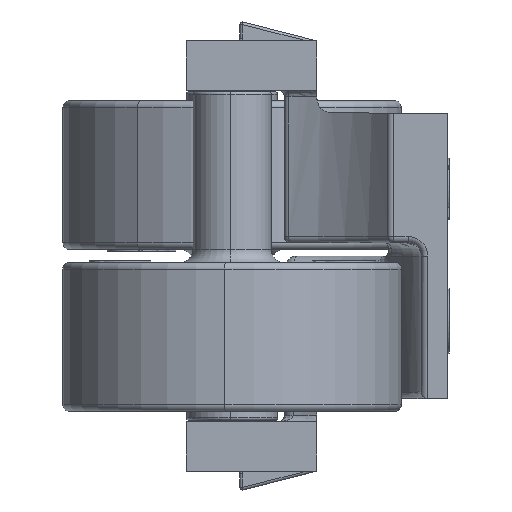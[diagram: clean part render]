
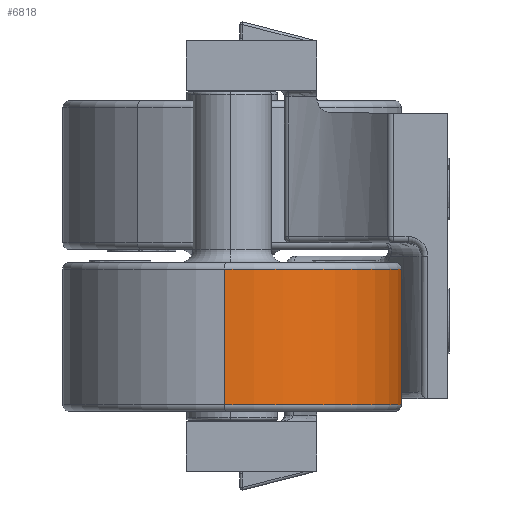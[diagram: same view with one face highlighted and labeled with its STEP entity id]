
A CAD part, left-side view. The second image highlights one B-rep face of the part: STEP entity #6818.
In plain terms, the highlighted cylindrical face has radius 13 mm (diameter 26 mm), a partial arc.
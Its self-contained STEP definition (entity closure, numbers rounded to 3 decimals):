
#787 = VERTEX_POINT ( 'NONE', #1171 ) ;
#1171 = CARTESIAN_POINT ( 'NONE',  ( 13., 0., -1. ) ) ;
#1366 = CARTESIAN_POINT ( 'NONE',  ( -13., 0., 11.9 ) ) ;
#1820 = AXIS2_PLACEMENT_3D ( 'NONE', #24413, #8770, #27038 ) ;
#1873 = CIRCLE ( 'NONE', #2193, 13. ) ;
#2193 = AXIS2_PLACEMENT_3D ( 'NONE', #13077, #31435, #15714 ) ;
#3185 = VERTEX_POINT ( 'NONE', #20557 ) ;
#5153 = VECTOR ( 'NONE', #9236, 1000. ) ;
#5316 = FACE_OUTER_BOUND ( 'NONE', #20939, .T. ) ;
#5410 = DIRECTION ( 'NONE',  ( 0., 0., -1. ) ) ;
#6818 = ADVANCED_FACE ( 'NONE', ( #5316 ), #23750, .T. ) ;
#7438 = CIRCLE ( 'NONE', #1820, 13. ) ;
#8045 = DIRECTION ( 'NONE',  ( -1., 0., 0. ) ) ;
#8770 = DIRECTION ( 'NONE',  ( 0., 0., -1. ) ) ;
#9236 = DIRECTION ( 'NONE',  ( 0., 0., -1. ) ) ;
#10201 = VERTEX_POINT ( 'NONE', #17093 ) ;
#11647 = CARTESIAN_POINT ( 'NONE',  ( 13., 0., 11.9 ) ) ;
#11863 = ORIENTED_EDGE ( 'NONE', *, *, #18700, .T. ) ;
#12089 = ORIENTED_EDGE ( 'NONE', *, *, #13562, .T. ) ;
#13077 = CARTESIAN_POINT ( 'NONE',  ( 0., 0., -11.4 ) ) ;
#13097 = CARTESIAN_POINT ( 'NONE',  ( 0., 0., 11.9 ) ) ;
#13562 = EDGE_CURVE ( 'NONE', #26225, #787, #7438, .T. ) ;
#15142 = ORIENTED_EDGE ( 'NONE', *, *, #18808, .F. ) ;
#15714 = DIRECTION ( 'NONE',  ( 1., 0., 0. ) ) ;
#17078 = AXIS2_PLACEMENT_3D ( 'NONE', #13097, #5410, #8045 ) ;
#17093 = CARTESIAN_POINT ( 'NONE',  ( -13., 0., -11.4 ) ) ;
#18002 = EDGE_CURVE ( 'NONE', #3185, #10201, #1873, .T. ) ;
#18700 = EDGE_CURVE ( 'NONE', #787, #3185, #27646, .T. ) ;
#18808 = EDGE_CURVE ( 'NONE', #26225, #10201, #26010, .T. ) ;
#20557 = CARTESIAN_POINT ( 'NONE',  ( 13., 0., -11.4 ) ) ;
#20939 = EDGE_LOOP ( 'NONE', ( #12089, #11863, #25939, #15142 ) ) ;
#21522 = VECTOR ( 'NONE', #29966, 1000. ) ;
#23750 = CYLINDRICAL_SURFACE ( 'NONE', #17078, 13. ) ;
#24105 = CARTESIAN_POINT ( 'NONE',  ( -13., 0., -1. ) ) ;
#24413 = CARTESIAN_POINT ( 'NONE',  ( 0., 0., -1. ) ) ;
#25939 = ORIENTED_EDGE ( 'NONE', *, *, #18002, .T. ) ;
#26010 = LINE ( 'NONE', #1366, #5153 ) ;
#26225 = VERTEX_POINT ( 'NONE', #24105 ) ;
#27038 = DIRECTION ( 'NONE',  ( 1., 0., 0. ) ) ;
#27646 = LINE ( 'NONE', #11647, #21522 ) ;
#29966 = DIRECTION ( 'NONE',  ( 0., 0., -1. ) ) ;
#31435 = DIRECTION ( 'NONE',  ( 0., 0., 1. ) ) ;
